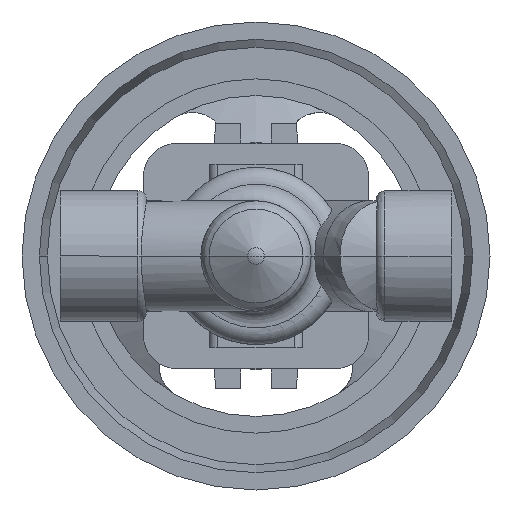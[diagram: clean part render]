
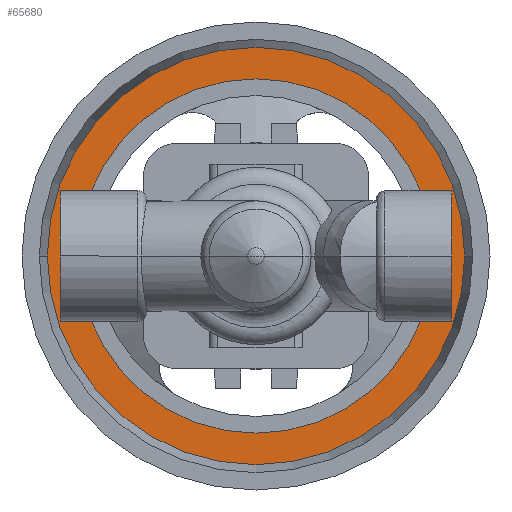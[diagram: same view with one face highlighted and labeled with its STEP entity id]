
A CAD part, front view. The second image highlights one B-rep face of the part: STEP entity #65680.
In plain terms, the highlighted planar face has unit normal (0, -1, 0).
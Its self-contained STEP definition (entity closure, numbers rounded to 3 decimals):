
#65130=CARTESIAN_POINT('',(-3.912,237.2,0.));
#65140=VERTEX_POINT('',#65130);
#65170=CARTESIAN_POINT('',(58.5,237.2,0.));
#65180=DIRECTION('',(0.,1.,0.));
#65190=DIRECTION('',(-1.,0.,0.));
#65200=AXIS2_PLACEMENT_3D('',#65170,#65180,#65190);
#65210=CIRCLE('',#65200,62.412);
#65220=CARTESIAN_POINT('',(120.912,237.2,0.)
);
#65230=VERTEX_POINT('',#65220);
#65240=EDGE_CURVE('',#65230,#65140,#65210,.T.);
#65430=CARTESIAN_POINT('',(0.794,237.2,0.)
);
#65440=DIRECTION('',(0.,-1.,0.));
#65450=DIRECTION('',(1.,0.,0.));
#65460=AXIS2_PLACEMENT_3D('',#65430,#65440,#65450);
#65470=PLANE('',#65460);
#65480=EDGE_CURVE('',#65140,#65230,#65210,.T.);
#65490=ORIENTED_EDGE('',*,*,#65480,.F.);
#65500=ORIENTED_EDGE('',*,*,#65240,.F.);
#65510=EDGE_LOOP('',(#65500,#65490));
#65520=FACE_OUTER_BOUND('',#65510,.T.);
#65530=CARTESIAN_POINT('',(58.5,237.2,0.));
#65540=DIRECTION('',(0.,1.,0.));
#65550=DIRECTION('',(-1.,0.,0.));
#65560=AXIS2_PLACEMENT_3D('',#65530,#65540,#65550);
#65570=CIRCLE('',#65560,53.);
#65580=CARTESIAN_POINT('',(111.5,237.2,0.));
#65590=VERTEX_POINT('',#65580);
#65600=CARTESIAN_POINT('',(5.5,237.2,0.));
#65610=VERTEX_POINT('',#65600);
#65620=EDGE_CURVE('',#65590,#65610,#65570,.T.);
#65630=ORIENTED_EDGE('',*,*,#65620,.T.);
#65640=EDGE_CURVE('',#65610,#65590,#65570,.T.);
#65650=ORIENTED_EDGE('',*,*,#65640,.T.);
#65660=EDGE_LOOP('',(#65650,#65630));
#65670=FACE_BOUND('',#65660,.T.);
#65680=ADVANCED_FACE('',(#65520,#65670),#65470,.T.);
